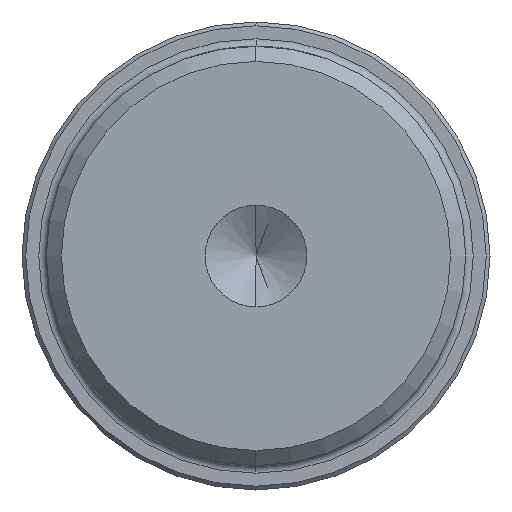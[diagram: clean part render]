
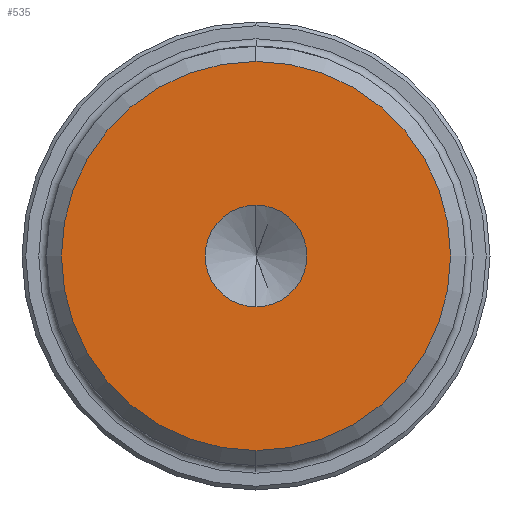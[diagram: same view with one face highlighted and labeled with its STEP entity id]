
A CAD part, left-side view. The second image highlights one B-rep face of the part: STEP entity #535.
In plain terms, the highlighted planar face has unit normal (-1, 0, 0).
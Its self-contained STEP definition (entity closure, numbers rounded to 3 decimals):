
#222 = CARTESIAN_POINT ( 'NONE',  ( -108.45, 0., 0. ) ) ;
#223 = PLANE ( 'NONE',  #713 ) ;
#228 = DIRECTION ( 'NONE',  ( 1., 0., 0. ) ) ;
#229 = DIRECTION ( 'NONE',  ( 0., 0., -1. ) ) ;
#280 = CARTESIAN_POINT ( 'NONE',  ( -108.45, 0., -6.745 ) ) ;
#300 = CARTESIAN_POINT ( 'NONE',  ( -108.45, 0., 6.745 ) ) ;
#324 = CARTESIAN_POINT ( 'NONE',  ( -108.45, 0., 25.78 ) ) ;
#325 = CARTESIAN_POINT ( 'NONE',  ( -108.45, 0., -25.78 ) ) ;
#366 = ORIENTED_EDGE ( 'NONE', *, *, #386, .T. ) ;
#367 = ORIENTED_EDGE ( 'NONE', *, *, #423, .T. ) ;
#370 = ORIENTED_EDGE ( 'NONE', *, *, #387, .F. ) ;
#373 = ORIENTED_EDGE ( 'NONE', *, *, #417, .F. ) ;
#386 = EDGE_CURVE ( 'NONE', #925, #924, #969, .T. ) ;
#387 = EDGE_CURVE ( 'NONE', #900, #889, #975, .T. ) ;
#417 = EDGE_CURVE ( 'NONE', #889, #900, #1020, .T. ) ;
#423 = EDGE_CURVE ( 'NONE', #924, #925, #1025, .T. ) ;
#535 = ADVANCED_FACE ( 'NONE', ( #1101, #1107 ), #223, .F. ) ;
#553 = EDGE_LOOP ( 'NONE', ( #366, #367 ) ) ;
#555 = EDGE_LOOP ( 'NONE', ( #370, #373 ) ) ;
#630 = AXIS2_PLACEMENT_3D ( 'NONE', #1298, #1299, #1300 ) ;
#631 = AXIS2_PLACEMENT_3D ( 'NONE', #1303, #1304, #1305 ) ;
#645 = AXIS2_PLACEMENT_3D ( 'NONE', #1375, #1376, #1377 ) ;
#649 = AXIS2_PLACEMENT_3D ( 'NONE', #1392, #1393, #1394 ) ;
#713 = AXIS2_PLACEMENT_3D ( 'NONE', #222, #228, #229 ) ;
#889 = VERTEX_POINT ( 'NONE', #280 ) ;
#900 = VERTEX_POINT ( 'NONE', #300 ) ;
#924 = VERTEX_POINT ( 'NONE', #324 ) ;
#925 = VERTEX_POINT ( 'NONE', #325 ) ;
#969 = CIRCLE ( 'NONE', #630, 25.78 ) ;
#975 = CIRCLE ( 'NONE', #631, 6.745 ) ;
#1020 = CIRCLE ( 'NONE', #645, 6.745 ) ;
#1025 = CIRCLE ( 'NONE', #649, 25.78 ) ;
#1101 = FACE_BOUND ( 'NONE', #555, .T. ) ;
#1107 = FACE_OUTER_BOUND ( 'NONE', #553, .T. ) ;
#1298 = CARTESIAN_POINT ( 'NONE',  ( -108.45, 0., 0. ) ) ;
#1299 = DIRECTION ( 'NONE',  ( -1., 0., 0. ) ) ;
#1300 = DIRECTION ( 'NONE',  ( 0., 0., 1. ) ) ;
#1303 = CARTESIAN_POINT ( 'NONE',  ( -108.45, 0., 0. ) ) ;
#1304 = DIRECTION ( 'NONE',  ( -1., 0., 0. ) ) ;
#1305 = DIRECTION ( 'NONE',  ( 0., 0., 1. ) ) ;
#1375 = CARTESIAN_POINT ( 'NONE',  ( -108.45, 0., 0. ) ) ;
#1376 = DIRECTION ( 'NONE',  ( -1., 0., 0. ) ) ;
#1377 = DIRECTION ( 'NONE',  ( 0., 0., 1. ) ) ;
#1392 = CARTESIAN_POINT ( 'NONE',  ( -108.45, 0., 0. ) ) ;
#1393 = DIRECTION ( 'NONE',  ( -1., 0., 0. ) ) ;
#1394 = DIRECTION ( 'NONE',  ( 0., 0., 1. ) ) ;
